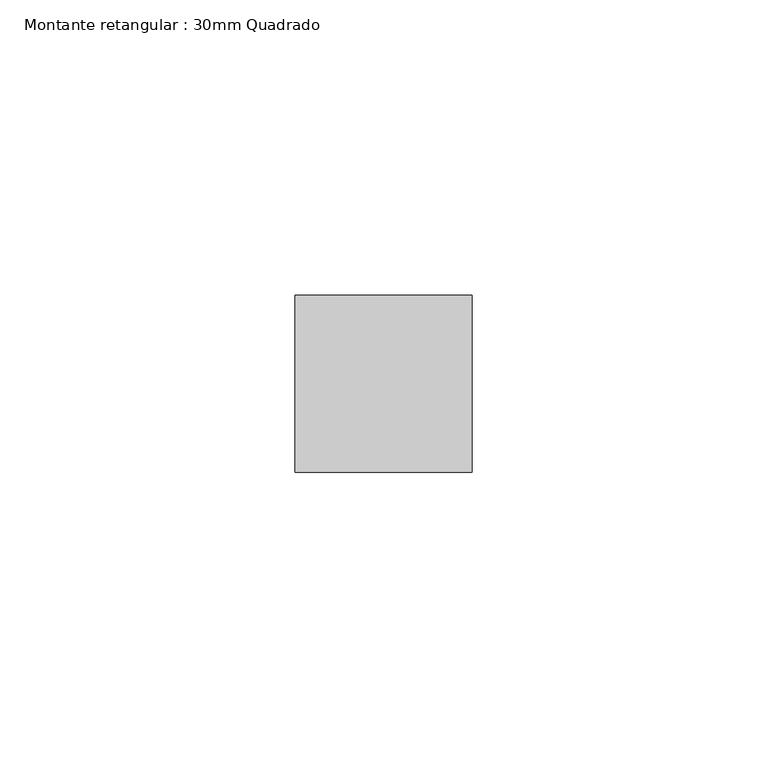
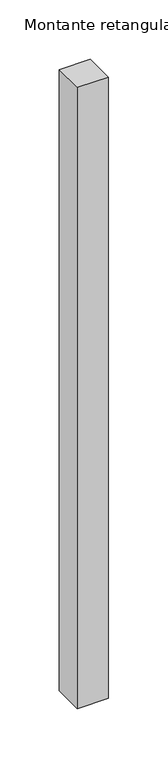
"""IFC4 building model written with IfcOpenShell, lengths in millimetres: member geometry, Montante retangular : 30mm Quadrado."""

from ifc_helpers import new_model, si_unit, frame, origin, place, context, project, spatial, polyline, outline, extrude, source, transform, mapped, element, save


def montante_retangular_30mm_quadrado_4952c7f2(model_context):
    return source(origin(), model_context, "Body", "SweptSolid", [
        extrude(outline(polyline([(0.0, 15.0), (0.0, -15.0), (-30.0, -15.0), (-30.0, 15.0), (0.0, 15.0)])), frame((0.0, 0.0, -637.5), z_axis=(0.0, 0.0, 1.0), x_axis=(1.0, 0.0, 0.0)), (0.0, 0.0, 1.0), 637.5),
    ])


if __name__ == "__main__":
    model = new_model("IFC4")
    model_context = context("Model", 3, world=origin())
    ifc_project = project(units=[si_unit("LENGTHUNIT", "METRE", prefix="MILLI")], contexts=[model_context])
    site = spatial("IfcSite", under=ifc_project)
    building = spatial("IfcBuilding", under=site)
    placement = place(None, origin())
    montante_retangular_30mm_quadrado_shape = montante_retangular_30mm_quadrado_4952c7f2(model_context)
    element("IfcMember", 1, ObjectType="Montante retangular : 30mm Quadrado", at=placement, inside=building, context=model_context, shape_type="MappedRepresentation", body=[
        mapped(montante_retangular_30mm_quadrado_shape, transform((0.0, 0.0, 0.0), x_axis=(1.0, 0.0, 0.0), y_axis=(0.0, 1.0, 0.0), z_axis=(0.0, 0.0, 1.0))),
    ])
    save(model, "model.ifc")
